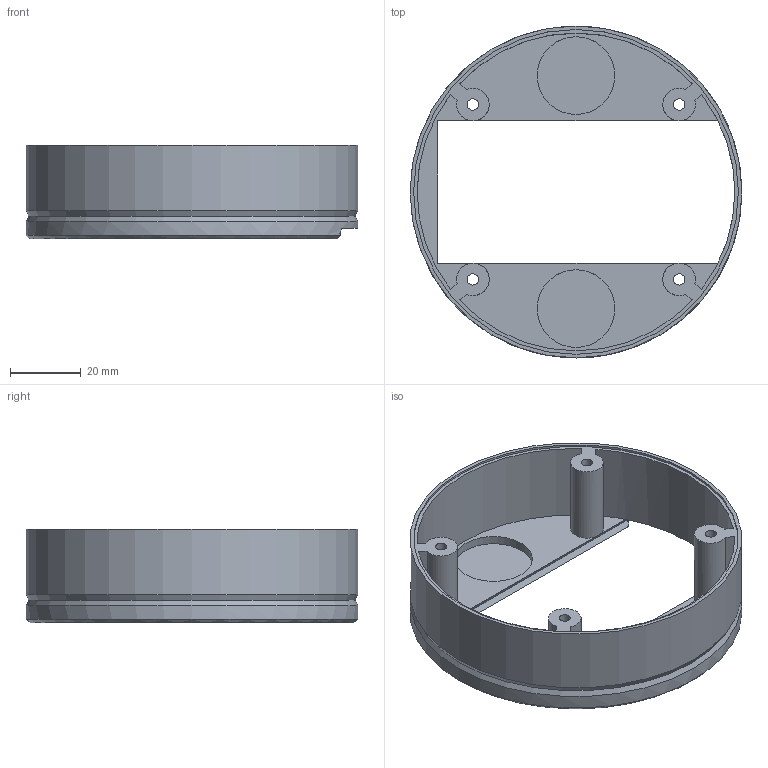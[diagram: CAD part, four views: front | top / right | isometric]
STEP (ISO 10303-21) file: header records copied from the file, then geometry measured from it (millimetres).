
FILE_DESCRIPTION(/* description */ (''),/* implementation_level */ '2;1');
FILE_NAME(/* name */ 'Case_bot.stp',/* time_stamp */ '2019-01-13T14:26:41+01:00',/* author */ (''),/* organization */ (''),/* preprocessor_version */ 'ST-DEVELOPER v16',/* originating_system */ 'SIEMENS PLM Software NX 11.0',/* authorisation */ '');
FILE_SCHEMA (('AUTOMOTIVE_DESIGN { 1 0 10303 214 3 1 1 1 }'));
Length unit declared in the file: millimetre
Products named in the file (1): Case_bot
Bounding box: 94 x 94 x 26.6 mm (x, y, z)
Volume: 25487.7 mm3; surface area: 26829.3 mm2
Topology: 1 solids, 1 shells, 56 faces, 134 edges, 86 vertices
Faces by surface type: plane 32, cylinder 21, cone 3
Full cylindrical faces by diameter (mm): 3.2 x4, 6.2 x4, 22 x2, 92 x1, 94 x2
Entity records: 1572 total; most frequent: DIRECTION 286, CARTESIAN_POINT 260, ORIENTED_EDGE 230, AXIS2_PLACEMENT_3D 116, EDGE_CURVE 115, EDGE_LOOP 87, VERTEX_POINT 82, ADVANCED_FACE 56
